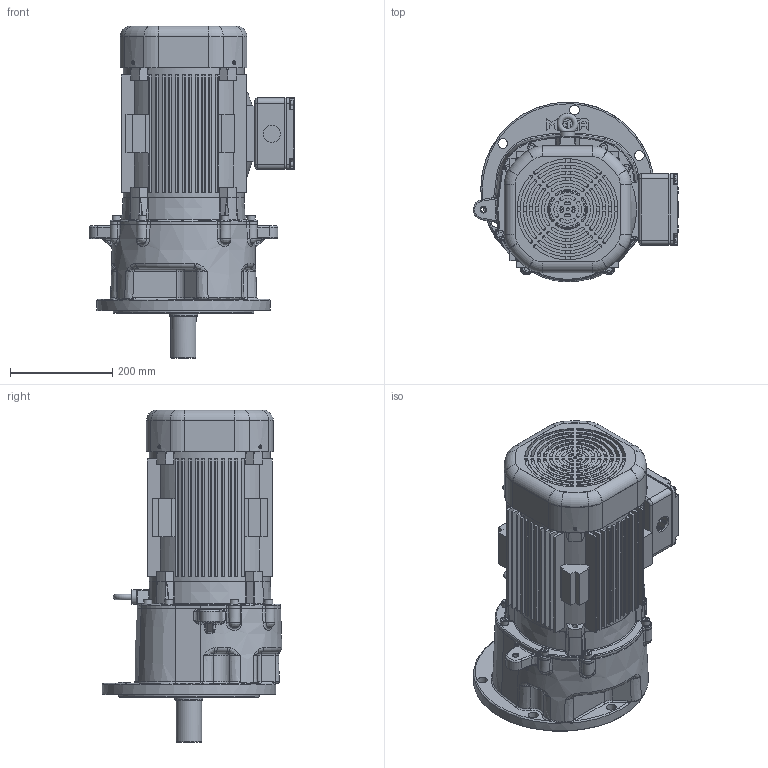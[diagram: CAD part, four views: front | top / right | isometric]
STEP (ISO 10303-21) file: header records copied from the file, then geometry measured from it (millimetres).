
FILE_DESCRIPTION(/* description */ (''),/* implementation_level */ '2;1');
FILE_NAME(/* name */ 'Z:\동력 3D 파일\PMK181_5.5kW_3D.stp',/* time_stamp */ '2021-12-01T15:24:33+09:00',/* author */ ('jaebok'),/* organization */ (''),/* preprocessor_version */ 'ST-DEVELOPER v18.1',/* originating_system */ 'Autodesk Inventor 2022',/* authorisation */ '');
FILE_SCHEMA (('AUTOMOTIVE_DESIGN { 1 0 10303 214 3 1 1 }'));
Products named in the file (1): 부품26
Bounding box: 402.84 x 352.21 x 650.5 mm (x, y, z)
Volume: 10342790 mm3; surface area: 1990786.2 mm2
Topology: 2 solids, 29 shells, 4218 faces, 10682 edges, 6465 vertices
Faces by surface type: plane 1351, bspline 1294, cylinder 850, torus 387, cone 178, sphere 158
Full cylindrical faces by diameter (mm): 4.134 x4, 4.917 x9, 5 x16, 6 x9, 6.5 x8, 6.647 x5, 6.8 x4, 7 x4, 8 x8, 8.376 x8, 9.5 x4, 10 x20, 10.106 x2, 10.2 x1, 11 x8, 12 x2, 13.2 x1, 15 x1, 16 x8, 19 x6, 20 x1, 28 x2, 32 x1, 34 x1, 36 x1, 49.6 x1, 50 x3, 52 x1, 55 x2, 60 x1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
Entity records: 155887 total; most frequent: CARTESIAN_POINT 58528, ORIENTED_EDGE 20844, DIRECTION 16960, EDGE_CURVE 10422, VERTEX_POINT 6463, AXIS2_PLACEMENT_3D 6347, EDGE_LOOP 4559, LINE 4266
